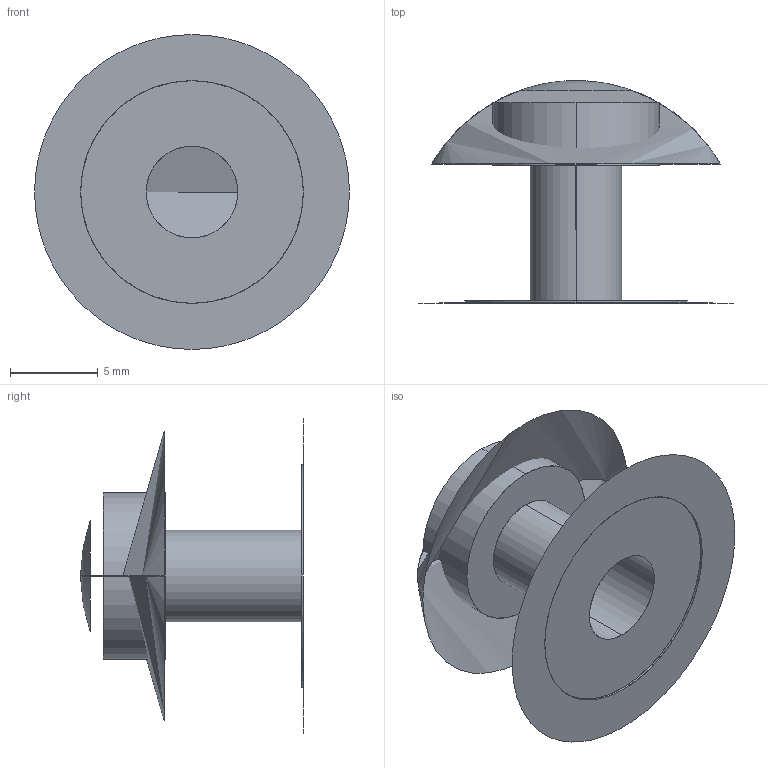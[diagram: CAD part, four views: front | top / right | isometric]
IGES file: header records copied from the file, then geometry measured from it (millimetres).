
Start section: SolidWorks IGES file using analytic representation for surfaces
Global section: file name: D:\Solid_parts\MECHeDESIGN\Bal-Tec\Catalog 105-A\Distribution\IGES\750-TBR-CB.IGS; native system: SolidWorks 2005 by SolidWorks Corporation; preprocessor: SolidWorks 2005 by SolidWorks Corporation; author: rvillegas; date: 061205.184939; units: inch
Bounding box: 17.96 x 12.7 x 17.96 mm (x, y, z)
Surface area: 838.2 mm2 (no closed solid volume)
Topology: 0 solids, 0 shells, 11 faces, 228 edges, 228 vertices
Faces by surface type: revolution 8, bspline 3
